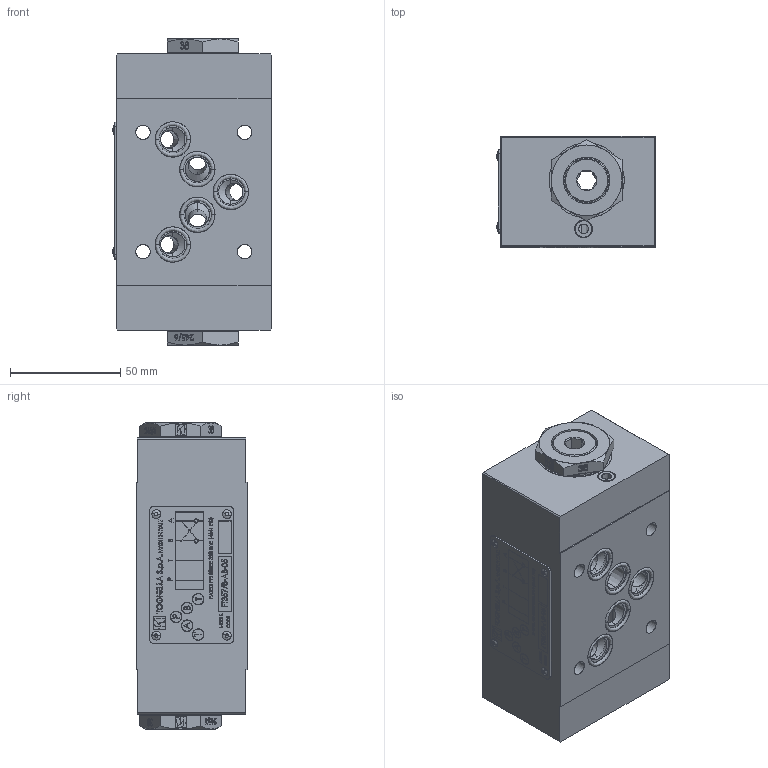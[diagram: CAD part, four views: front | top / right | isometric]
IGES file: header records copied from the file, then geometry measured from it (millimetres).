
Start section: SolidWorks IGES file using analytic representation for surfaces
Global section: file name: C:\Users\pc-te25\Desktop\357-8-AB-05.IGS; native system: SolidWorks 2018; preprocessor: SolidWorks 2018; author: pc-te25; date: 191204.090708; units: millimetre
Bounding box: 71.66 x 50.58 x 138.6 mm (x, y, z)
Surface area: 54535.9 mm2 (no closed solid volume)
Topology: 0 solids, 0 shells, 830 faces, 16406 edges, 16400 vertices
Faces by surface type: bspline 626, revolution 204
